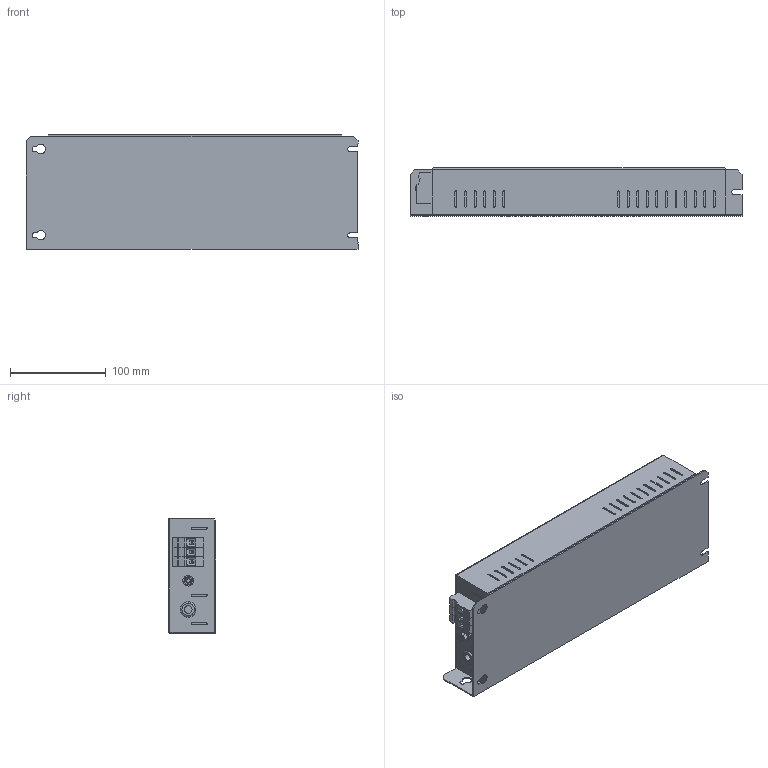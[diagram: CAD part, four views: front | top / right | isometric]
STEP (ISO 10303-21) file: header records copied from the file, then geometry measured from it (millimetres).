
FILE_DESCRIPTION (( 'STEP AP203' ), '1' );
FILE_NAME ('NF-U-LE-i550-34022.STEP', '2020-08-20T15:44:18', ( '' ), ( '' ), 'SwSTEP 2.0', 'SolidWorks 2017', '' );
FILE_SCHEMA (( 'CONFIG_CONTROL_DESIGN' ));
Length unit declared in the file: millimetre
Products named in the file (9): VDFK-6; VDFK6x3; hex screw_am_B18.6.7M - M5 x 0.8 x 13 Indented HHMS --13S; M5x20 Earth post; flat washer narrow_am_B18.22M - Plain washer, 5 mm, narrow; hex nut style 1_am_B18.2.4.1M - Hex nut, Style 1,  M5 x 0.8 --D-N; NF-U-LE-i550-34022; Grommet_15080
Assembly tree (11 placements, depth 3):
  NF-U-LE-i550-34022
    NF-U-LE-i550-34022
    VDFK6x3
      VDFK-6  x3
    M5x20 Earth post
      flat washer narrow_am_B18.22M - Plain washer, 5 mm, narrow  x2
      hex nut style 1_am_B18.2.4.1M - Hex nut, Style 1,  M5 x 0.8 --D-N
      hex screw_am_B18.6.7M - M5 x 0.8 x 13 Indented HHMS --13S
    Grommet_15080
Bounding box: 347 x 50 x 120 mm (x, y, z)
Volume: 1858120 mm3; surface area: 141286.2 mm2
Topology: 9 solids, 9 shells, 585 faces, 1427 edges, 908 vertices
Faces by surface type: plane 296, cylinder 181, cone 104, torus 4
Entity records: 14920 total; most frequent: DIRECTION 2525, CARTESIAN_POINT 2518, ORIENTED_EDGE 2274, EDGE_CURVE 1137, AXIS2_PLACEMENT_3D 943, VERTEX_POINT 728, VECTOR 639, LINE 639
